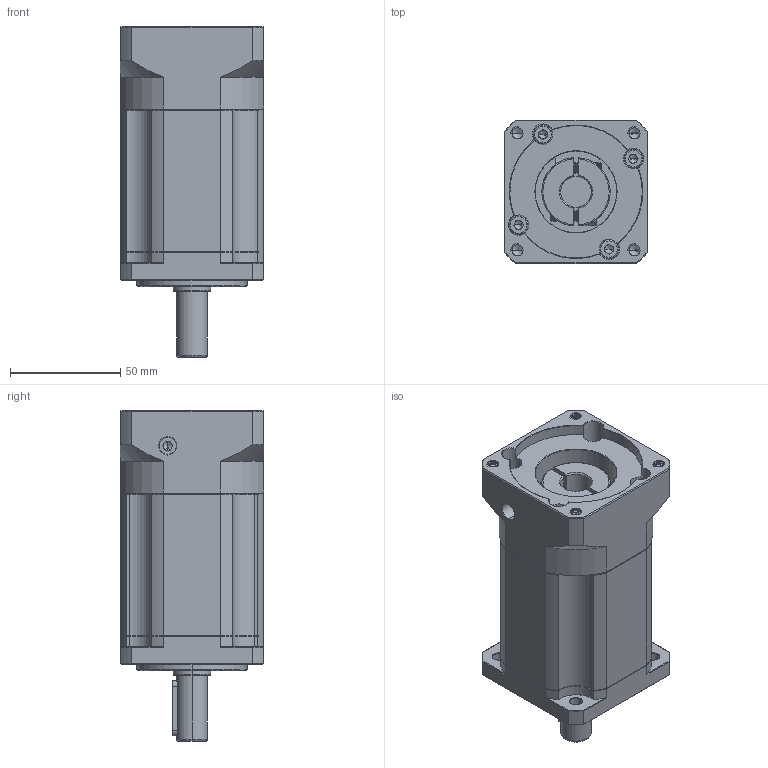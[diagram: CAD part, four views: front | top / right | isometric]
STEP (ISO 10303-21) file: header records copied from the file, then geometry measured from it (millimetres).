
FILE_DESCRIPTION (( 'STEP AP214' ), '1' );
FILE_NAME ('ZB060-D14-L3-P2-14-60-75-M6.step', '2023-08-16T07:03:20', ( '' ), ( '' ), 'SwSTEP 2.0', 'SolidWorks 2016', '' );
FILE_SCHEMA (( 'AUTOMOTIVE_DESIGN' ));
Length unit declared in the file: millimetre
Products named in the file (1): ZB060-D14-L3-P2-14-60-75-M6
Bounding box: 65 x 65 x 150 mm (x, y, z)
Volume: 384996.9 mm3; surface area: 62906.6 mm2
Topology: 6 solids, 6 shells, 2168 faces, 5843 edges, 3759 vertices
Faces by surface type: plane 1059, bspline 397, cylinder 392, cone 284, torus 36
Entity records: 117556 total; most frequent: CARTESIAN_POINT 42375, ORIENTED_EDGE 11626, DIRECTION 9188, EDGE_CURVE 5813, VERTEX_POINT 3759, VECTOR 3668, LINE 3668, AXIS2_PLACEMENT_3D 2760
